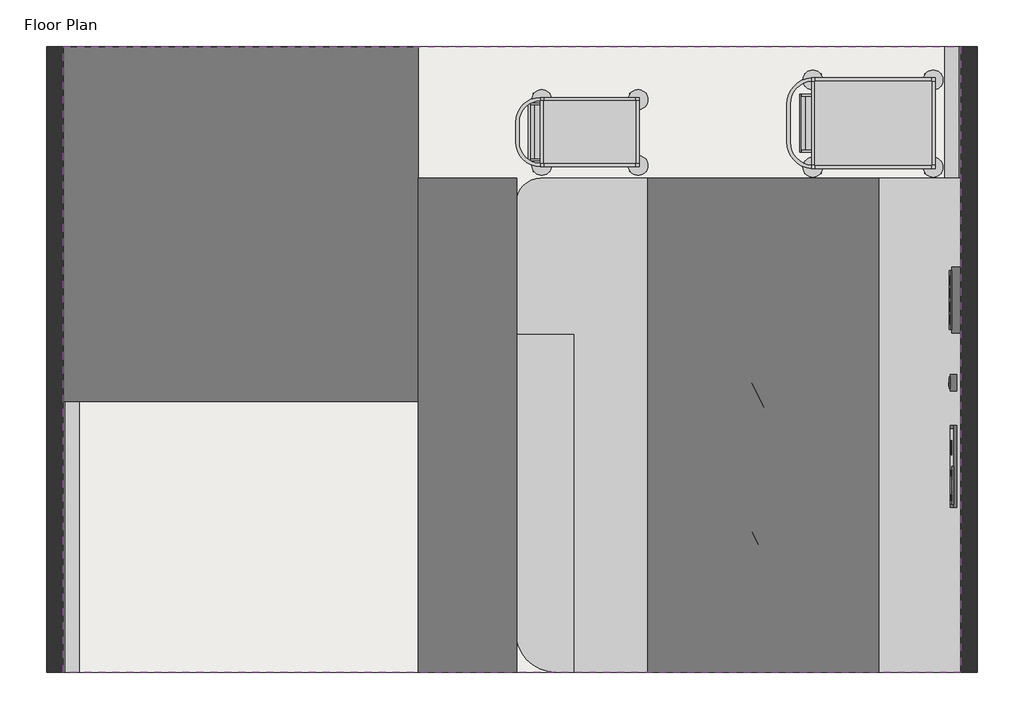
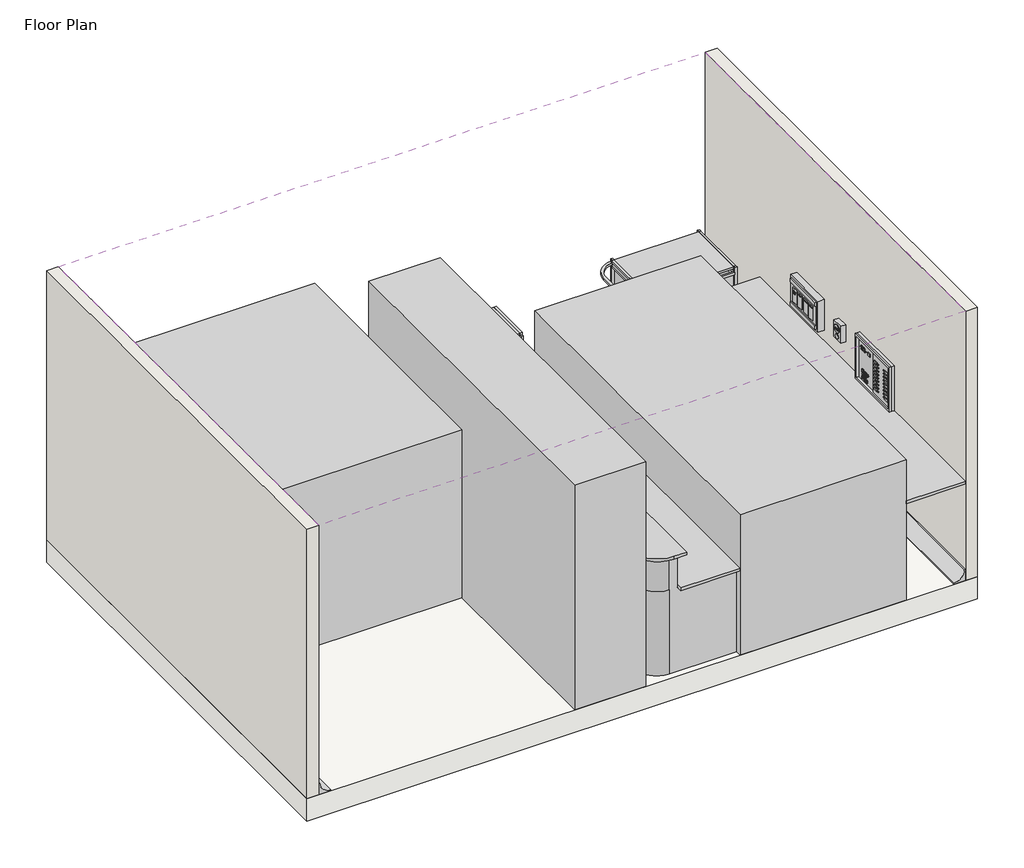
# One storey, incomplete: 10 proxies, 7 furniture elements, 2 walls, 1 covering, 1 slab.
"""IFC4 building model written with IfcOpenShell, lengths in millimetres."""

from ifc_helpers import new_model, si_unit, point, frame, frame_2d, origin, place, context, project, spatial, polyline, circle_curve, trimmed, segment, composite_curve, outline, extrude, faceted_brep, transform, mapped, element, save
from components import generic_models_b4fb940c, generic_models_45d6de81, generic_models_7e918288, generic_models_c4deb569, bimhealth_electrical_fire_alarm_v1_type_1_df29756c, bimhealth_electrical_gas_panel_v1_type_1_a7d1eeb7, bimhealth_electrical_nurse_call_panel_v1_type_1_87daaa80, furniture_fb8e9059, furniture_40786aaf, furniture_0ca81bbc, furniture_1a2447f9, furniture_3911303b

model = new_model("IFC4")

# Units and contexts
model_context = context("Model", 3, world=origin())
ifc_project = project(units=[si_unit("LENGTHUNIT", "METRE", prefix="MILLI")], contexts=[model_context])

# Site, building, storey
site = spatial("IfcSite", under=ifc_project)
building = spatial("IfcBuilding", under=site)
storey = spatial("IfcBuildingStorey", under=building, Name="Floor Plan", Elevation=0.0)

# Proxies
placement = place(None, origin())
element("IfcBuildingElementProxy", 1, Name="Wall Sweeps", at=placement, inside=storey, context=model_context, shape_type="SweptSolid", body=[
    extrude(outline(composite_curve([segment(polyline([(0.0, 0.0), (0.0, 100.0), (10.0, 100.0)]), True, "CONTINUOUS"), segment(trimmed(circle_curve(frame_2d((100.0, 100.0)), 90.0), [point((10.0, 100.0))], [point((100.0, 10.0))], True, "CARTESIAN"), True, "CONTINUOUS"), segment(polyline([(100.0, 10.0), (100.0, 0.0), (0.0, 0.0)]), True, "CONTINUOUS")], self_intersect=False)), frame((0.0, -95.0, 0.0), z_axis=(0.0, 1.0, 0.0), x_axis=(0.0, 0.0, 1.0)), (0.0, 0.0, 1.0), 3800.0),
])
element("IfcBuildingElementProxy", 2, Name="Wall Sweeps", at=placement, inside=storey, context=model_context, shape_type="SweptSolid", body=[
    extrude(outline(composite_curve([segment(polyline([(0.0, 5450.0), (100.0, 5450.0), (100.0, 5440.0)]), True, "CONTINUOUS"), segment(trimmed(circle_curve(frame_2d((100.0, 5350.0)), 90.0), [point((100.0, 5440.0))], [point((10.0, 5350.0))], True, "CARTESIAN"), True, "CONTINUOUS"), segment(polyline([(10.0, 5350.0), (0.0, 5350.0), (0.0, 5450.0)]), True, "CONTINUOUS")], self_intersect=False)), frame((0.0, -95.0, 0.0), z_axis=(0.0, 1.0, 0.0), x_axis=(0.0, 0.0, 1.0)), (0.0, 0.0, 1.0), 3800.0),
])
generic_models_shape = generic_models_b4fb940c(model_context)
element("IfcBuildingElementProxy", 3, Name="BIMHealth-400x600mm_Mobile_Under_Counter_Drawer-LOD2A-v1 : BIMHealth-400x600mm_Mobile_Under_Counter_Drawer-LOD2A-v1", ObjectType="BIMHealth-400x600mm_Mobile_Under_Counter_Drawer-LOD2A-v1 : BIMHealth-400x600mm_Mobile_Under_Counter_Drawer-LOD2A-v1", at=placement, inside=storey, context=model_context, shape_type="MappedRepresentation", body=[
    mapped(generic_models_shape, transform((2920.0, 1493.0, 40.0), x_axis=(0.0, 1.0, 0.0), y_axis=(-1.0, 0.0, 0.0), z_axis=(0.0, 0.0, 1.0))),
])
element("IfcBuildingElementProxy", 4, Name="BIMHealth-400x600mm_Mobile_Under_Counter_Drawer-LOD2A-v1 : BIMHealth-400x600mm_Mobile_Under_Counter_Drawer-LOD2A-v1", ObjectType="BIMHealth-400x600mm_Mobile_Under_Counter_Drawer-LOD2A-v1 : BIMHealth-400x600mm_Mobile_Under_Counter_Drawer-LOD2A-v1", at=placement, inside=storey, context=model_context, shape_type="MappedRepresentation", body=[
    mapped(generic_models_shape, transform((2920.0, 3.0, 40.0), x_axis=(0.0, 1.0, 0.0), y_axis=(-1.0, 0.0, 0.0), z_axis=(0.0, 0.0, 1.0))),
])
generic_models_2_shape = generic_models_45d6de81(model_context)
element("IfcBuildingElementProxy", 5, Name="BIMHealth-Bed_Hospital_Corridor_Clearance-LOD2A-v1 : BIMHealth-Bed_Hospital_Corridor_Clearance-LOD2A-v1", ObjectType="BIMHealth-Bed_Hospital_Corridor_Clearance-LOD2A-v1 : BIMHealth-Bed_Hospital_Corridor_Clearance-LOD2A-v1", at=placement, inside=storey, context=model_context, shape_type="MappedRepresentation", body=[
    mapped(generic_models_2_shape, transform((1080.0, 2625.0, 0.0), x_axis=(0.0, 1.0000000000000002, 0.0), y_axis=(-1.0000000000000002, 0.0, 0.0), z_axis=(0.0, 0.0, 1.0))),
])
generic_models_3_shape = generic_models_7e918288(model_context)
element("IfcBuildingElementProxy", 6, Name="BIMHealth-Nurses_Station_Standing_Zone_Clearance-LOD2A-v1 : BIMHealth-Nurses_Station_Standing_Zone_Clearance-LOD2A-v1", ObjectType="BIMHealth-Nurses_Station_Standing_Zone_Clearance-LOD2A-v1 : BIMHealth-Nurses_Station_Standing_Zone_Clearance-LOD2A-v1", at=placement, inside=storey, context=model_context, shape_type="MappedRepresentation", body=[
    mapped(generic_models_3_shape, transform((2455.0, 1405.0, 0.0), x_axis=(1.0, 0.0, 0.0), y_axis=(0.0, 1.0, 0.0), z_axis=(0.0, 0.0, 1.0))),
])
generic_models_4_shape = generic_models_c4deb569(model_context)
element("IfcBuildingElementProxy", 7, Name="BIMHealth-Nurses_Station_Seating_Clearance_Zone-LOD2A-v1 : BIMHealth-Nurses_Station_Seating_Clearance_Zone-LOD2A-v1", ObjectType="BIMHealth-Nurses_Station_Seating_Clearance_Zone-LOD2A-v1 : BIMHealth-Nurses_Station_Seating_Clearance_Zone-LOD2A-v1", at=placement, inside=storey, context=model_context, shape_type="MappedRepresentation", body=[
    mapped(generic_models_4_shape, transform((4250.0, 1405.0, 0.0), x_axis=(1.0, 0.0, 0.0), y_axis=(0.0, 1.0, 0.0), z_axis=(0.0, 0.0, 1.0))),
])
bimhealth_electrical_fire_alarm_v1_type_1_shape = bimhealth_electrical_fire_alarm_v1_type_1_df29756c(model_context)
element("IfcBuildingElementProxy", 8, Name="BIMHealth-Electrical-Fire_Alarm-v1 : Type 1", ObjectType="BIMHealth-Electrical-Fire_Alarm-v1 : Type 1", at=placement, inside=storey, context=model_context, shape_type="MappedRepresentation", body=[
    mapped(bimhealth_electrical_fire_alarm_v1_type_1_shape, transform((5500.0, 1488.4669803, -100.0), x_axis=(0.0, 1.0, 0.0), y_axis=(-1.0, 0.0, 0.0), z_axis=(0.0, 0.0, 1.0))),
])
bimhealth_electrical_gas_panel_v1_type_1_shape = bimhealth_electrical_gas_panel_v1_type_1_a7d1eeb7(model_context)
element("IfcBuildingElementProxy", 9, Name="BIMHealth-Electrical-Gas_Panel-v1 : Type 1", ObjectType="BIMHealth-Electrical-Gas_Panel-v1 : Type 1", at=placement, inside=storey, context=model_context, shape_type="MappedRepresentation", body=[
    mapped(bimhealth_electrical_gas_panel_v1_type_1_shape, transform((5500.0, 2040.0, -220.0), x_axis=(0.0, 1.0, 0.0), y_axis=(-1.0, 0.0, 0.0), z_axis=(0.0, 0.0, 1.0))),
])
bimhealth_electrical_nurse_call_panel_v1_type_1_shape = bimhealth_electrical_nurse_call_panel_v1_type_1_87daaa80(model_context)
element("IfcBuildingElementProxy", 10, Name="BIMHealth-Electrical-Nurse_Call_Panel-v1 : Type 1", ObjectType="BIMHealth-Electrical-Nurse_Call_Panel-v1 : Type 1", at=placement, inside=storey, context=model_context, shape_type="MappedRepresentation", body=[
    mapped(bimhealth_electrical_nurse_call_panel_v1_type_1_shape, transform((5500.0, 1029.9282756, -625.0001286), x_axis=(0.0, 1.0, 0.0), y_axis=(-1.0, 0.0, 0.0), z_axis=(0.0, 0.0, 1.0))),
])

# Covering
element("IfcCovering", 11, ObjectType="BIMHealth - Generic Ceiling", at=placement, inside=storey, context=model_context, shape_type="SweptSolid", body=[
    extrude(outline(polyline([(5450.0, 3705.0), (5450.0, -95.0), (0.0, -95.0), (0.0, 3705.0), (5450.0, 3705.0)])), frame((0.0, 0.0, 2400.0), z_axis=(0.0, 0.0, 1.0), x_axis=(1.0, 0.0, 0.0)), (0.0, 0.0, 1.0), 52.0),
])

# Furniture
furniture_shape = furniture_fb8e9059(model_context)
element("IfcFurniture", 12, ObjectType="BIMHealth-Chair_Consultant-LOD2A-v1 : BIMHealth-Chair_Consultant-LOD2A-v1", at=placement, inside=storey, context=model_context, shape_type="MappedRepresentation", body=[
    mapped(furniture_shape, transform((4464.6040782, 2410.4998948, 0.0), x_axis=(-0.5735764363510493, -0.8191520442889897, 0.0), y_axis=(0.8191520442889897, -0.5735764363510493, 0.0), z_axis=(0.0, 0.0, 1.0))),
])
element("IfcFurniture", 13, ObjectType="BIMHealth-Chair_Consultant-LOD2A-v1 : BIMHealth-Chair_Consultant-LOD2A-v1", at=placement, inside=storey, context=model_context, shape_type="MappedRepresentation", body=[
    mapped(furniture_shape, transform((4225.1314891, 1680.9394578, 0.0), x_axis=(0.45460504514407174, -0.8906931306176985, 0.0), y_axis=(0.8906931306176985, 0.45460504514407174, 0.0), z_axis=(0.0, 0.0, 1.0))),
])
element("IfcFurniture", 14, ObjectType="BIMHealth-Chair_Consultant-LOD2A-v1 : BIMHealth-Chair_Consultant-LOD2A-v1", at=placement, inside=storey, context=model_context, shape_type="MappedRepresentation", body=[
    mapped(furniture_shape, transform((4225.1769995, 780.9251439, 0.0), x_axis=(0.4544837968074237, -0.8907550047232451, 0.0), y_axis=(0.8907550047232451, 0.4544837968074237, 0.0), z_axis=(0.0, 0.0, 1.0))),
])
furniture_2_shape = furniture_40786aaf(model_context)
element("IfcFurniture", 15, ObjectType="BIMHealth-Desk_Nurses_Station-LOD2A-v1 : BIMHealth-Desk_Nurses_Station-LOD2A-v1", at=placement, inside=storey, context=model_context, shape_type="MappedRepresentation", body=[
    mapped(furniture_2_shape, transform((3150.0, 1405.0, 0.0), x_axis=(1.0, 0.0, 0.0), y_axis=(0.0, 1.0, 0.0), z_axis=(0.0, 0.0, 1.0))),
])
furniture_3_shape = furniture_0ca81bbc(model_context)
element("IfcFurniture", 16, ObjectType="BIMHealth-Worktop_Nurses_Station-LOD2A-v1 : BIMHealth-Worktop_Nurses_Station-LOD2A-v1", at=placement, inside=storey, context=model_context, shape_type="MappedRepresentation", body=[
    mapped(furniture_3_shape, transform((5200.0, 1405.0, 860.0), x_axis=(1.0, 0.0, 0.0), y_axis=(0.0, 1.0, 0.0), z_axis=(0.0, 0.0, 1.0))),
])
furniture_4_shape = furniture_1a2447f9(model_context)
element("IfcFurniture", 17, ObjectType="BIMHealth-Trolley_Notes_750x550-LOD2A-v1 : BIMHealth-Trolley_Notes_750x550-LOD2A-v1", at=placement, inside=storey, context=model_context, shape_type="MappedRepresentation", body=[
    mapped(furniture_4_shape, transform((4918.176857, 3240.0, -60.0), x_axis=(1.0, 0.0, 0.0), y_axis=(0.0, 1.0, 0.0), z_axis=(0.0, 0.0, 1.0))),
])
furniture_5_shape = furniture_3911303b(model_context)
element("IfcFurniture", 18, ObjectType="BIMHealth-Trolley_Notes_420x600-LOD2A-v1 : BIMHealth-Trolley_Notes_420x600-LOD2A-v1", at=placement, inside=storey, context=model_context, shape_type="MappedRepresentation", body=[
    mapped(furniture_5_shape, transform((3272.5, 3185.7931539, 0.0), x_axis=(1.0, 0.0, 0.0), y_axis=(0.0, 1.0, 0.0), z_axis=(0.0, 0.0, 1.0))),
])

# Slab
element("IfcSlab", 19, ObjectType="BIMHealth - Generic Floor", at=placement, inside=storey, context=model_context, shape_type="SweptSolid", body=[
    extrude(outline(polyline([(5550.0, 3705.0), (5550.0, -95.0), (-100.0, -95.0), (-100.0, 3705.0), (5550.0, 3705.0)])), frame((0.0, 0.0, -200.0), z_axis=(0.0, 0.0, 1.0), x_axis=(1.0, 0.0, 0.0)), (0.0, 0.0, 1.0), 200.0),
])

# Walls
element("IfcWall", 20, ObjectType="BIMHealth - Generic Wall", at=placement, inside=storey, context=model_context, shape_type="Brep", body=[
    faceted_brep([(0.0, -95.0, 0.0), (0.0, 3705.0, 0.0), (0.0, 3705.0, 100.0), (0.0, 3705.0, 2400.0), (0.0, -95.0, 2400.0), (0.0, -95.0, 100.0), (-100.0, -95.0, 0.0), (-100.0, -95.0, 2400.0), (-100.0, 3705.0, 2400.0), (-100.0, 3705.0, 0.0)], [[[0, 1, 2, 3, 4, 5]], [[6, 7, 8, 9]], [[1, 0, 6, 9]], [[3, 2, 1, 9, 8]], [[4, 3, 8, 7]], [[0, 5, 4, 7, 6]]]),
])
element("IfcWall", 21, ObjectType="BIMHealth - Generic Wall", at=placement, inside=storey, context=model_context, shape_type="Brep", body=[
    faceted_brep([(5450.0, 3705.0, 0.0), (5450.0, -95.0, 0.0), (5450.0, -95.0, 100.0), (5450.0, -95.0, 2400.0), (5450.0, 3705.0, 2400.0), (5450.0, 3705.0, 100.0), (5550.0, 3705.0, 0.0), (5550.0, 3705.0, 2400.0), (5550.0, -95.0, 2400.0), (5550.0, -95.0, 0.0)], [[[0, 1, 2, 3, 4, 5]], [[6, 7, 8, 9]], [[1, 0, 6, 9]], [[3, 2, 1, 9, 8]], [[4, 3, 8, 7]], [[0, 5, 4, 7, 6]]]),
])

save(model, "model.ifc")
